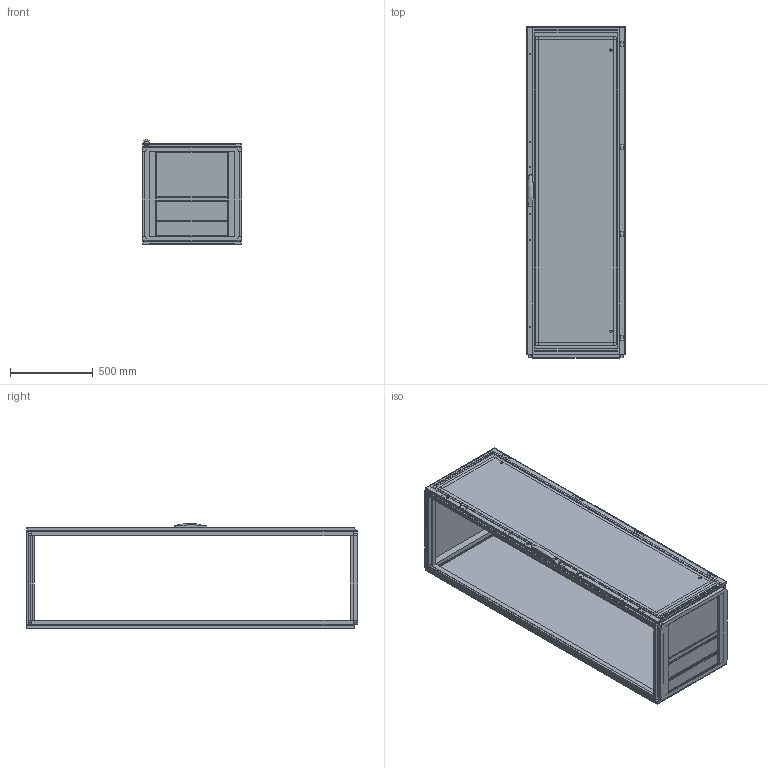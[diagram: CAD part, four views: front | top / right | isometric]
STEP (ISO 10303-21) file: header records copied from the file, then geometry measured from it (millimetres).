
FILE_DESCRIPTION(/* description */ ('STEP AP203'),/* implementation_level */ '2;1');
FILE_NAME(/* name */ 'MCS20066PER5(0R)',/* time_stamp */ '2024-03-01T13:55:01+01:00',/* author */ ('License CC BY-ND 4.0'),/* organization */ ('CADENAS'),/* preprocessor_version */ 'ST-DEVELOPER v19.3',/* originating_system */ 'PARTsolutions',/* authorisation */ ' ');
FILE_SCHEMA (('CONFIG_CONTROL_DESIGN'));
Length unit declared in the file: millimetre
Products named in the file (14): MCS20066PER5(0R); MCS20066R5_Frame; CRPK06(0)_Rear Panel Mounting Kit; CRP2006R5(0)_Rear Panel; DNMK01(0)_Rod catches; DNMK01(0)_Hinge; DN2006R5(0)_Plain door; LSSDXXXX(0)_Lock; LSSD2000(0)_Espagnolette Top; LSSD2000(0)_Espagnolette Bottom; CCR066R5(0)_Roof plate; CBPW600D300(0)_Bottom Plate 3; CBP060(0)_Bottom Plate 1; CBP060(0)_Bottom Plate 2
Assembly tree (26 placements, depth 2):
  MCS20066PER5(0R)
    MCS20066R5_Frame
    CRPK06(0)_Rear Panel Mounting Kit  x8
    CRP2006R5(0)_Rear Panel
    DNMK01(0)_Rod catches  x4
    DNMK01(0)_Hinge  x4
    DN2006R5(0)_Plain door
    LSSDXXXX(0)_Lock
    LSSD2000(0)_Espagnolette Top
    LSSD2000(0)_Espagnolette Bottom
    CCR066R5(0)_Roof plate
    CBPW600D300(0)_Bottom Plate 3
    CBP060(0)_Bottom Plate 1
    CBP060(0)_Bottom Plate 2
Bounding box: 599 x 2006 x 634.9 mm (x, y, z)
Volume: 23540102.9 mm3; surface area: 9309975.1 mm2
Topology: 26 solids, 26 shells, 1229 faces, 3245 edges, 2135 vertices
Faces by surface type: plane 1054, cylinder 116, cone 58, torus 1
Full cylindrical faces by diameter (mm): 5 x20, 5.2 x2, 6 x6, 7 x6, 7.4 x4, 8 x16, 9 x2, 10 x12, 14 x4
Entity records: 27949 total; most frequent: CARTESIAN_POINT 4974, ORIENTED_EDGE 4658, DIRECTION 4424, EDGE_CURVE 2329, LINE 2062, VECTOR 2062, VERTEX_POINT 1581, AXIS2_PLACEMENT_3D 1181
